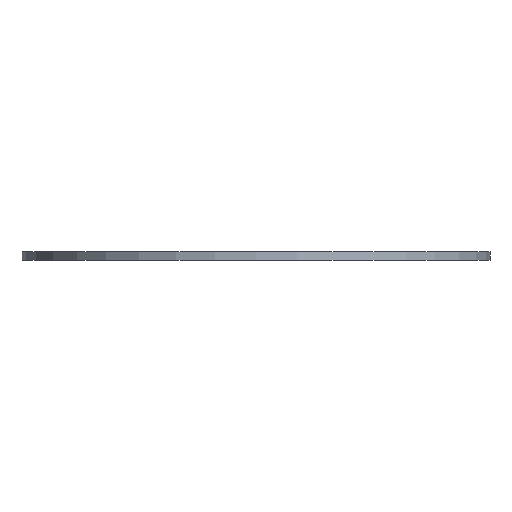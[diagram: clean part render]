
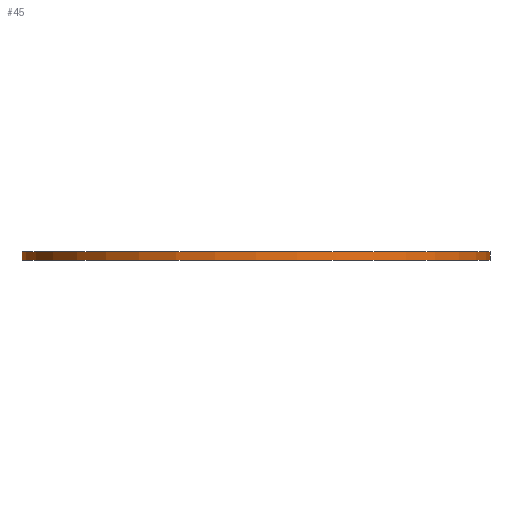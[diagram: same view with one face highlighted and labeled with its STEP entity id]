
A CAD part, front view. The second image highlights one B-rep face of the part: STEP entity #45.
In plain terms, the highlighted cylindrical face has radius 39.5 mm (diameter 79 mm), a full revolution.
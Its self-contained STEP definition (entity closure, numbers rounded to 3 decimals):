
#45 = ADVANCED_FACE('',(#46),#73,.T.);
#46 = FACE_BOUND('',#47,.F.);
#47 = EDGE_LOOP('',(#48,#58,#65,#66));
#48 = ORIENTED_EDGE('',*,*,#49,.T.);
#49 = EDGE_CURVE('',#50,#52,#54,.T.);
#50 = VERTEX_POINT('',#51);
#51 = CARTESIAN_POINT('',(89.5,50.,0.));
#52 = VERTEX_POINT('',#53);
#53 = CARTESIAN_POINT('',(89.5,50.,1.443));
#54 = LINE('',#55,#56);
#55 = CARTESIAN_POINT('',(89.5,50.,0.));
#56 = VECTOR('',#57,1.);
#57 = DIRECTION('',(0.,0.,1.));
#58 = ORIENTED_EDGE('',*,*,#59,.T.);
#59 = EDGE_CURVE('',#52,#52,#60,.T.);
#60 = CIRCLE('',#61,39.5);
#61 = AXIS2_PLACEMENT_3D('',#62,#63,#64);
#62 = CARTESIAN_POINT('',(50.,50.,1.443));
#63 = DIRECTION('',(0.,0.,1.));
#64 = DIRECTION('',(1.,0.,-0.));
#65 = ORIENTED_EDGE('',*,*,#49,.F.);
#66 = ORIENTED_EDGE('',*,*,#67,.F.);
#67 = EDGE_CURVE('',#50,#50,#68,.T.);
#68 = CIRCLE('',#69,39.5);
#69 = AXIS2_PLACEMENT_3D('',#70,#71,#72);
#70 = CARTESIAN_POINT('',(50.,50.,0.));
#71 = DIRECTION('',(0.,0.,1.));
#72 = DIRECTION('',(1.,0.,-0.));
#73 = CYLINDRICAL_SURFACE('',#74,39.5);
#74 = AXIS2_PLACEMENT_3D('',#75,#76,#77);
#75 = CARTESIAN_POINT('',(50.,50.,0.));
#76 = DIRECTION('',(-0.,-0.,-1.));
#77 = DIRECTION('',(1.,0.,-0.));
